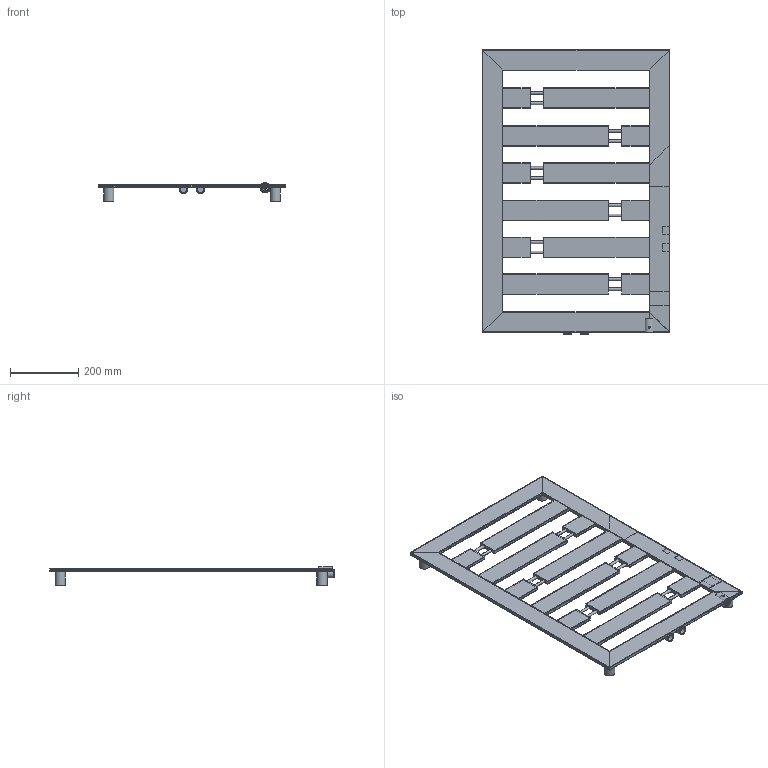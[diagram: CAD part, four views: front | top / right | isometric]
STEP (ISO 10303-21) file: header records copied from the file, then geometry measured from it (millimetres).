
FILE_DESCRIPTION( ( 'Unknown' ), '1' );
FILE_NAME( 'D:/Alplast sp. j/Witryna zespoBu - Projekty/Archiwum/Grzejniki Archiwum/Projekty/DESIGN PROGRAM/TENSOR/TENSOR 1.stp', 'Unknown', ( 'Unknown' ), ( 'Unknown' ), 'PSStep 10.1', 'Unknown', ' ' );
FILE_SCHEMA( ( 'AUTOMOTIVE_DESIGN { 1 0 10303 214 1 1 1 1 }' ) );
Length unit declared in the file: millimetre
Products named in the file (20): kana³ poziomy L430; Assem1; kana³ poziomu  60x10   L430; ³¹cznik kana³u poziomego 60x10 L430; ³¹cznik kana³u poziomego 60x10 L430-oa0; tuleja wieszaka; tuleja wieszaka-oa1; tuleja wieszaka-oa2; tuleja wieszaka-oa3; sworzen wieszaka; sworzen wieszaka-oa4; sworzen wieszaka-oa5; sworzen wieszaka-oa6; kana³ poziomy    górny  60x10   L550; kana³ poziomy    dolny  60x10   L550; mufa prz³aczeniowa; mufa prz³aczeniowa-oa7; kana³ pionowy  60x10   L830; kana³ pionowy  60x10   L830-oa8
Bounding box: 550 x 835 x 55.02 mm (x, y, z)
Volume: 1888725.4 mm3; surface area: 2298566.6 mm2
Topology: 60 solids, 60 shells, 976 faces, 2460 edges, 1584 vertices
Faces by surface type: plane 572, cylinder 368, cone 28, bspline 8
Full cylindrical faces by diameter (mm): 4.917 x8, 6 x16, 7 x64, 8 x16, 18.974 x4, 20 x8, 22 x8, 25 x4, 30 x8
Entity records: 12461 total; most frequent: CARTESIAN_POINT 2381, DIRECTION 1538, ORIENTED_EDGE 1436, EDGE_CURVE 718, AXIS2_PLACEMENT_3D 525, LINE 488, VECTOR 488, VERTEX_POINT 484
